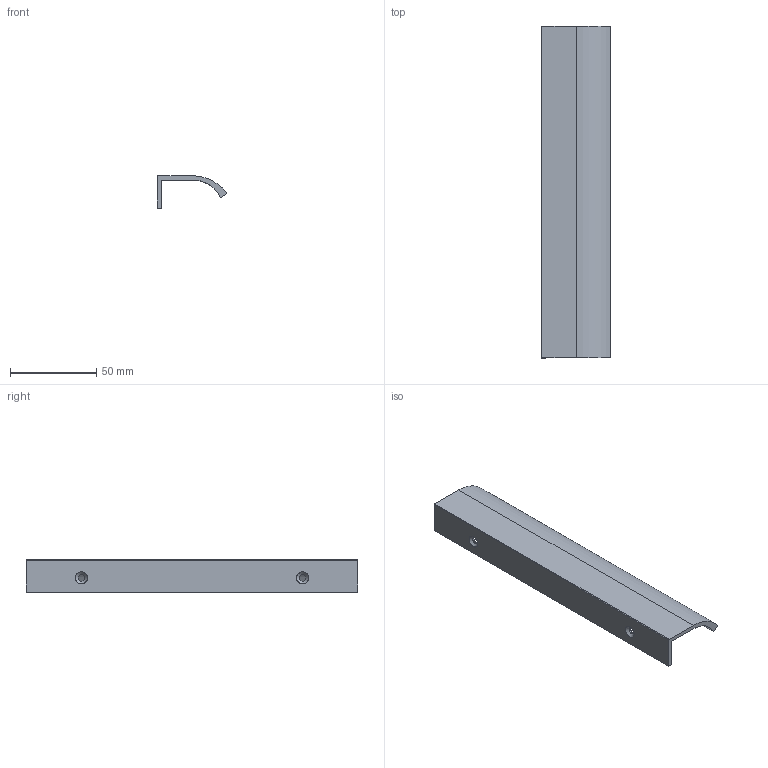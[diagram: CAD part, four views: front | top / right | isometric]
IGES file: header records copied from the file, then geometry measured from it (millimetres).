
Start section: C
Global section: file name: 8340-192.igs; native system: By Siemens PLM Incorporated; preprocessor: XPlus GENERIC/IGES 16.0.42; author: Author; organization: Title; date: 20230831.082754; units: millimetre
Bounding box: 40 x 192 x 18.8 mm (x, y, z)
Surface area: 23933.8 mm2 (no closed solid volume)
Topology: 0 solids, 0 shells, 17 faces, 98 edges, 98 vertices
Faces by surface type: bspline 17
